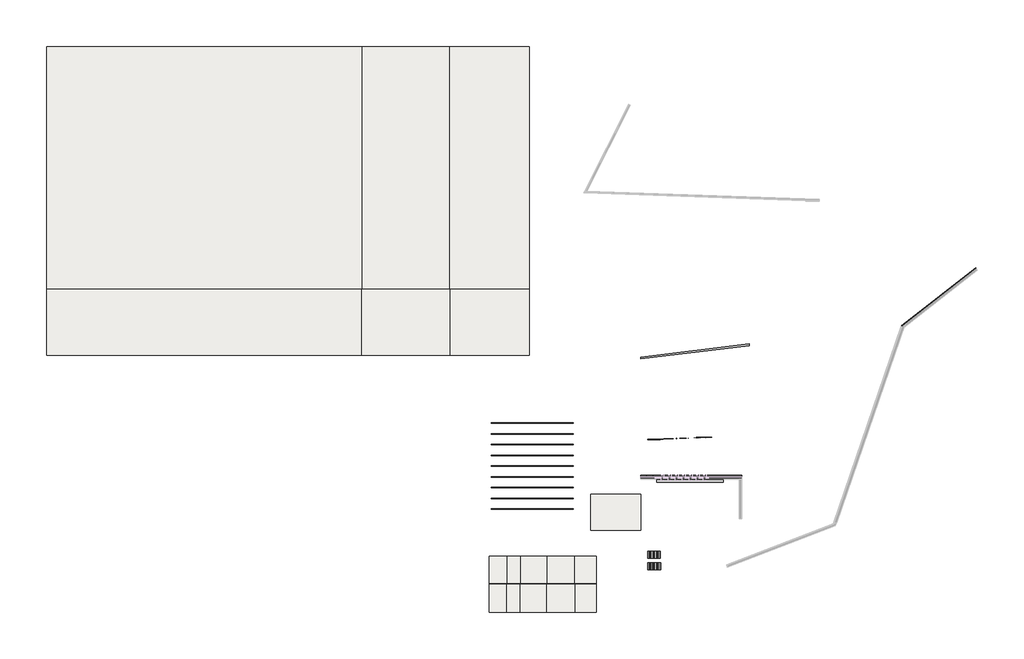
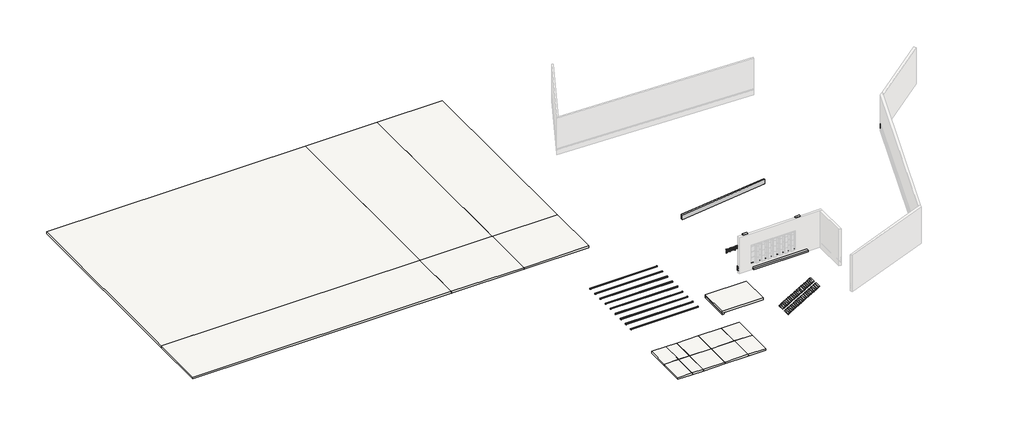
# One storey, part 3 of 3: 9 beams, 8 proxies, 3 slabs, 2 stair flights, 1 railing.
"""IFC4 building model written with IfcOpenShell, lengths in millimetres."""

from ifc_helpers import new_model, si_unit, point, frame, frame_2d, origin, origin_with_axes, place, context, project, spatial, polyline, circle_curve, ellipse_curve, trimmed, segment, composite_curve, outline, extrude, faceted_brep, transform, mapped, element, save
from ifc_brep_helpers import plane_surface, cylinder_surface, advanced_brep
from components import i_20b_96209b2f, generic_models_19370851, generic_models_e365064d, stair_flight_9368ac00, stair_flight_5a34b58b

model = new_model("IFC4")

# Units and contexts
model_context = context("Model", 3, world=origin())
ifc_project = project(units=[si_unit("LENGTHUNIT", "METRE", prefix="MILLI")], contexts=[model_context])

# Site, building, storey
site = spatial("IfcSite", under=ifc_project)
building = spatial("IfcBuilding", under=site)
storey = spatial("IfcBuildingStorey", under=building, Name="Уровень 1", Elevation=0.0)

# Beams
placement = place(None, origin())
i_20b_shape = i_20b_96209b2f(model_context)
element("IfcBeam", 1, ObjectType="Двутавровая балка с параллельными гранями полок типа Б (ТУ 14-2-24-72) Балки : I 20B", at=placement, inside=storey, context=model_context, shape_type="MappedRepresentation", body=[
    mapped(i_20b_shape, transform((-40548.8124728, 17779.8601583, -97.0), x_axis=(1.0, 0.0, 0.0), y_axis=(0.0, 1.0, 0.0), z_axis=(0.0, 0.0, 1.0))),
])
element("IfcBeam", 2, ObjectType="Двутавровая балка с параллельными гранями полок типа Б (ТУ 14-2-24-72) Балки : I 20B", at=placement, inside=storey, context=model_context, shape_type="MappedRepresentation", body=[
    mapped(i_20b_shape, transform((-40548.8124728, 15951.0601583, -97.0), x_axis=(1.0, 0.0, 0.0), y_axis=(0.0, 1.0, 0.0), z_axis=(0.0, 0.0, 1.0))),
])
element("IfcBeam", 3, ObjectType="Двутавровая балка с параллельными гранями полок типа Б (ТУ 14-2-24-72) Балки : I 20B", at=placement, inside=storey, context=model_context, shape_type="MappedRepresentation", body=[
    mapped(i_20b_shape, transform((-40548.8124728, 14122.2601583, -97.0), x_axis=(1.0, 0.0, 0.0), y_axis=(0.0, 1.0, 0.0), z_axis=(0.0, 0.0, 1.0))),
])
element("IfcBeam", 4, ObjectType="Двутавровая балка с параллельными гранями полок типа Б (ТУ 14-2-24-72) Балки : I 20B", at=placement, inside=storey, context=model_context, shape_type="MappedRepresentation", body=[
    mapped(i_20b_shape, transform((-40548.8124728, 12293.4601583, -97.0), x_axis=(1.0, 0.0, 0.0), y_axis=(0.0, 1.0, 0.0), z_axis=(0.0, 0.0, 1.0))),
])
element("IfcBeam", 5, ObjectType="Двутавровая балка с параллельными гранями полок типа Б (ТУ 14-2-24-72) Балки : I 20B", at=placement, inside=storey, context=model_context, shape_type="MappedRepresentation", body=[
    mapped(i_20b_shape, transform((-40548.8124728, 10464.6601583, -97.0), x_axis=(1.0, 0.0, 0.0), y_axis=(0.0, 1.0, 0.0), z_axis=(0.0, 0.0, 1.0))),
])
element("IfcBeam", 6, ObjectType="Двутавровая балка с параллельными гранями полок типа Б (ТУ 14-2-24-72) Балки : I 20B", at=placement, inside=storey, context=model_context, shape_type="MappedRepresentation", body=[
    mapped(i_20b_shape, transform((-40548.8124728, 8635.8601583, -97.0), x_axis=(1.0, 0.0, 0.0), y_axis=(0.0, 1.0, 0.0), z_axis=(0.0, 0.0, 1.0))),
])
element("IfcBeam", 7, ObjectType="Двутавровая балка с параллельными гранями полок типа Б (ТУ 14-2-24-72) Балки : I 20B", at=placement, inside=storey, context=model_context, shape_type="MappedRepresentation", body=[
    mapped(i_20b_shape, transform((-40548.8124728, 6807.0601583, -97.0), x_axis=(1.0, 0.0, 0.0), y_axis=(0.0, 1.0, 0.0), z_axis=(0.0, 0.0, 1.0))),
])
element("IfcBeam", 8, ObjectType="Двутавровая балка с параллельными гранями полок типа Б (ТУ 14-2-24-72) Балки : I 20B", at=placement, inside=storey, context=model_context, shape_type="MappedRepresentation", body=[
    mapped(i_20b_shape, transform((-40548.8124728, 4978.2601583, -97.0), x_axis=(1.0, 0.0, 0.0), y_axis=(0.0, 1.0, 0.0), z_axis=(0.0, 0.0, 1.0))),
])
element("IfcBeam", 9, ObjectType="Двутавровая балка с параллельными гранями полок типа Б (ТУ 14-2-24-72) Балки : I 20B", at=placement, inside=storey, context=model_context, shape_type="MappedRepresentation", body=[
    mapped(i_20b_shape, transform((-40548.8124728, 3149.4601583, -97.0), x_axis=(1.0, 0.0, 0.0), y_axis=(0.0, 1.0, 0.0), z_axis=(0.0, 0.0, 1.0))),
])

# Proxies
element("IfcBuildingElementProxy", 10, Name="Карниз", ObjectType="Карниз", at=placement, inside=storey, context=model_context, shape_type="SweptSolid", body=[
    extrude(outline(polyline([(-22062.5352251, 8444.6601583), (-22062.5352251, 8944.6601583), (-4832.5352251, 8944.6601583), (-4832.5352251, 8444.6601583), (-22062.5352251, 8444.6601583)])), frame((0.0, 0.0, 400.0), z_axis=(0.0, 0.0, 1.0), x_axis=(1.0, 0.0, 0.0)), (0.0, 0.0, 1.0), 1000.0),
])
element("IfcBuildingElementProxy", 11, Name="Карниз", ObjectType="Карниз", at=placement, inside=storey, context=model_context, shape_type="SweptSolid", body=[
    extrude(outline(polyline([(-9162.5352251, 8944.6601583), (-9162.5352251, 8444.6601583), (-10162.5352251, 8444.6601583), (-10162.5352251, 8944.6601583), (-9162.5352251, 8944.6601583)])), origin_with_axes(), (0.0, 0.0, 1.0), 8000.0),
])
element("IfcBuildingElementProxy", 12, Name="Карниз", ObjectType="Карниз", at=placement, inside=storey, context=model_context, shape_type="SweptSolid", body=[
    extrude(outline(polyline([(-20062.5352251, 8944.6601583), (-20062.5352251, 8444.6601583), (-21062.5352251, 8444.6601583), (-21062.5352251, 8944.6601583), (-20062.5352251, 8944.6601583)])), origin_with_axes(), (0.0, 0.0, 1.0), 8000.0),
])
element("IfcBuildingElementProxy", 13, Name="Кромка плиты", ObjectType="Кромка плиты", at=placement, inside=storey, context=model_context, shape_type="Brep", body=[
    faceted_brep([(-30562.5352251, 5650.3560812, -700.0), (-30562.5352251, 5650.3560812, -400.0), (-29962.5352251, 5050.3560812, -400.0), (-30262.5352251, 5350.3560812, -700.0), (-30562.5352251, -449.6439188, -700.0), (-30262.5352251, -449.6439188, -700.0), (-29962.5352251, -449.6439188, -400.0), (-30562.5352251, -449.6439188, -400.0)], [[[0, 1, 2, 3]], [[4, 5, 6, 7]], [[1, 0, 4, 7]], [[2, 1, 7, 6]], [[3, 2, 6, 5]], [[0, 3, 5, 4]]]),
])
element("IfcBuildingElementProxy", 14, Name="Reveals", at=placement, inside=storey, context=model_context, shape_type="AdvancedBrep", body=[
    advanced_brep(
    [(22397.5758724, 34312.0338235, 1673.1169098), (22347.3386796, 34347.8676649, 1800.0), (22347.3386796, 34347.8676649, 600.0), (22392.5291567, 34315.6336109, 751.8422279), (22367.7136203, 34333.334361, 959.7985223), (22400.8730748, 34309.6819519, 1200.0), (22369.0627844, 34332.3720116, 1466.5729246), (35045.6237733, 44193.7718518, 1673.1169098), (35024.9491709, 44220.2341361, 1466.5729246), (35048.0145472, 44190.7118008, 1200.0), (35023.9709033, 44221.4862616, 959.7985223), (35041.9644418, 44198.4555826, 751.8422279), (35009.1972037, 44240.3957347, 600.0), (35009.1972037, 44240.3957347, 1800.0)],
    [
        (0, 1),
        (1, 2),
        (2, 3, ellipse_curve(frame((22271.8588457, 34401.7069072, 716.4080451), z_axis=(-0.5807029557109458, -0.8141155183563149, 0.0), x_axis=(-0.8141155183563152, 0.5807029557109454, 0.0)), 152.7602218, 146.4695154)),
        (3, 4),
        (4, 5),
        (5, 6),
        (6, 0),
        (7, 8),
        (8, 9),
        (9, 10),
        (10, 11),
        (11, 12, circle_curve(frame((34954.4674057, 44310.4466817, 716.4080451), z_axis=(0.7880107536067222, 0.6156614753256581, 0.0), x_axis=(-0.6156614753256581, 0.7880107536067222, 0.0)), 146.4695154)),
        (12, 13),
        (13, 7),
        (0, 7),
        (13, 1),
        (12, 2),
        (11, 3),
        (10, 4),
        (9, 5),
        (8, 6),
    ],
    [
        plane_surface(frame((22347.3386796, 34347.8676649, 1504.8), z_axis=(-0.5807029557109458, -0.8141155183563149, 0.0), x_axis=(0.8141155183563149, -0.5807029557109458, 0.0))),
        plane_surface(frame((35009.1972037, 44240.3957347, 1800.0), z_axis=(0.788010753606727, 0.615661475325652, 0.0), x_axis=(0.615661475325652, -0.788010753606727, 0.0))),
        plane_surface(frame((22397.5758724, 34312.0338235, 1673.1169098), z_axis=(0.5579787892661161, -0.7141802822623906, 0.4226182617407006), x_axis=(0.7880107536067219, 0.6156614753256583, 0.0))),
        plane_surface(frame((22347.3386796, 34347.8676649, 1800.0), z_axis=(-0.615661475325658, 0.7880107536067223, 0.0), x_axis=(0.7880107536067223, 0.615661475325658, 0.0))),
        cylinder_surface(frame((22292.6088816, 34417.918612, 716.4080451), z_axis=(-0.7880107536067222, -0.6156614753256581, 0.0), x_axis=(-0.6156614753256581, 0.7880107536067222, 0.0)), 146.4695154),
        plane_surface(frame((22392.5291567, 34315.6336109, 751.8422279), z_axis=(0.6096699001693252, -0.7803418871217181, 0.13917310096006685), x_axis=(0.7880107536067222, 0.6156614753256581, 0.0))),
        plane_surface(frame((22367.7136203, 34333.334361, 959.7985223), z_axis=(0.6076820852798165, -0.7777976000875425, -0.16047858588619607), x_axis=(0.7880107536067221, 0.6156614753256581, 0.0))),
        plane_surface(frame((22400.8730748, 34309.6819519, 1200.0), z_axis=(0.609669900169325, -0.7803418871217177, 0.13917310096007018), x_axis=(0.7880107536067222, 0.6156614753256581, 0.0))),
        plane_surface(frame((22369.0627844, 34332.3720116, 1466.5729246), z_axis=(0.607682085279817, -0.7777976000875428, -0.1604785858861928), x_axis=(0.788010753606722, 0.6156614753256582, 0.0))),
    ],
    [
        (0, [[1, 2, 3, 4, 5, 6, 7]]),
        (1, [[8, 9, 10, 11, 12, 13, 14]]),
        (2, [[-1, 15, -14, 16]]),
        (3, [[-2, -16, -13, 17]]),
        (4, [[-3, -17, -12, 18]]),
        (5, [[-4, -18, -11, 19]]),
        (6, [[-5, -19, -10, 20]]),
        (7, [[-6, -20, -9, 21]]),
        (8, [[-7, -21, -8, -15]]),
    ],
),
])
element("IfcBuildingElementProxy", 15, Name="Кромка плиты", ObjectType="Кромка плиты", at=placement, inside=storey, context=model_context, shape_type="Brep", body=[
    faceted_brep([(-22062.5352251, 5650.3560812, -700.0), (-22062.5352251, 5650.3560812, -400.0), (-22062.5352251, 5050.3560812, -400.0), (-22062.5352251, 5350.3560812, -700.0), (-30562.5352251, 5650.3560812, -700.0), (-30262.5352251, 5350.3560812, -700.0), (-29962.5352251, 5050.3560812, -400.0), (-30562.5352251, 5650.3560812, -400.0)], [[[0, 1, 2, 3]], [[4, 5, 6, 7]], [[1, 0, 4, 7]], [[2, 1, 7, 6]], [[3, 2, 6, 5]], [[0, 3, 5, 4]]]),
])
generic_models_shape = generic_models_19370851(model_context)
element("IfcBuildingElementProxy", 16, Name="Семейство21 : Семейство21", ObjectType="Семейство21 : Семейство21", at=placement, inside=storey, context=model_context, shape_type="MappedRepresentation", body=[
    mapped(generic_models_shape, transform((-22062.5352251, 28879.8601583, 0.0), x_axis=(0.9925461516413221, 0.12186934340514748, 0.0), y_axis=(-0.12186934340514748, 0.9925461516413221, 0.0), z_axis=(0.0, 0.0, 1.0))),
])
generic_models_2_shape = generic_models_e365064d(model_context)
element("IfcBuildingElementProxy", 17, Name="5_Профиль_Управление параметрами : 5_Профиль_Управление параметрами", ObjectType="5_Профиль_Управление параметрами : 5_Профиль_Управление параметрами", at=placement, inside=storey, context=model_context, shape_type="MappedRepresentation", body=[
    mapped(generic_models_2_shape, transform((-19329.5062361, 8234.6601583, 444.9749226), x_axis=(1.0, 0.0, 0.0), y_axis=(0.0, 0.0, 1.0), z_axis=(0.0, -1.0, 0.0))),
])

# Railing
element("IfcRailing", 18, ObjectType="Труба 900 мм", at=placement, inside=storey, context=model_context, shape_type="SweptSolid", body=[
    extrude(outline(composite_curve([segment(trimmed(circle_curve(frame_2d((0.0, 20.0)), 20.0), [point((-20.0, 20.0))], [point((20.0000001, 20.0))], False, "CARTESIAN"), True, "CONTINUOUS"), segment(trimmed(circle_curve(frame_2d((0.0, 20.0)), 20.0), [point((20.0000001, 20.0))], [point((-20.0, 20.0))], False, "CARTESIAN"), True, "CONTINUOUS")], self_intersect=False)), frame((-20882.1790658, 15003.6066223, 900.0), z_axis=(0.9993908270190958, 0.034899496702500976, 0.0), x_axis=(0.034899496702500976, -0.9993908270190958, 0.0)), (0.0, 0.0, 1.0), 10900.0),
    extrude(outline(composite_curve([segment(trimmed(circle_curve(frame_2d((0.0, 15.0)), 15.0), [point((15.0, 15.0))], [point((-15.0, 15.0))], False, "CARTESIAN"), True, "CONTINUOUS"), segment(trimmed(circle_curve(frame_2d((0.0, 15.0)), 15.0), [point((-15.0, 15.0))], [point((15.0, 15.0))], False, "CARTESIAN"), True, "CONTINUOUS")], self_intersect=False)), frame((-20882.1790658, 15003.6066223, 775.0), z_axis=(0.9993908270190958, 0.034899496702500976, 0.0), x_axis=(0.034899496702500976, -0.9993908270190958, 0.0)), (0.0, 0.0, 1.0), 10900.0),
    extrude(outline(composite_curve([segment(trimmed(circle_curve(frame_2d((0.0, 15.0)), 15.0), [point((15.0, 15.0))], [point((-15.0, 15.0))], False, "CARTESIAN"), True, "CONTINUOUS"), segment(trimmed(circle_curve(frame_2d((0.0, 15.0)), 15.0), [point((-15.0, 15.0))], [point((15.0, 15.0))], False, "CARTESIAN"), True, "CONTINUOUS")], self_intersect=False)), frame((-20882.1790658, 15003.6066223, 650.0), z_axis=(0.9993908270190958, 0.034899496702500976, 0.0), x_axis=(0.034899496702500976, -0.9993908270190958, 0.0)), (0.0, 0.0, 1.0), 10900.0),
    extrude(outline(composite_curve([segment(trimmed(circle_curve(frame_2d((0.0, 15.0)), 15.0), [point((15.0, 15.0))], [point((-15.0, 15.0))], False, "CARTESIAN"), True, "CONTINUOUS"), segment(trimmed(circle_curve(frame_2d((0.0, 15.0)), 15.0), [point((-15.0, 15.0))], [point((15.0, 15.0))], False, "CARTESIAN"), True, "CONTINUOUS")], self_intersect=False)), frame((-20882.1790658, 15003.6066223, 525.0), z_axis=(0.9993908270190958, 0.034899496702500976, 0.0), x_axis=(0.034899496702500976, -0.9993908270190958, 0.0)), (0.0, 0.0, 1.0), 10900.0),
    extrude(outline(composite_curve([segment(trimmed(circle_curve(frame_2d((0.0, 15.0)), 15.0), [point((15.0, 15.0))], [point((-15.0, 15.0))], False, "CARTESIAN"), True, "CONTINUOUS"), segment(trimmed(circle_curve(frame_2d((0.0, 15.0)), 15.0), [point((-15.0, 15.0))], [point((15.0, 15.0))], False, "CARTESIAN"), True, "CONTINUOUS")], self_intersect=False)), frame((-20882.1790658, 15003.6066223, 400.0), z_axis=(0.9993908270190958, 0.034899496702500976, 0.0), x_axis=(0.034899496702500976, -0.9993908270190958, 0.0)), (0.0, 0.0, 1.0), 10900.0),
    extrude(outline(composite_curve([segment(trimmed(circle_curve(frame_2d((0.0, 15.0)), 15.0), [point((15.0, 15.0))], [point((-15.0, 15.0))], False, "CARTESIAN"), True, "CONTINUOUS"), segment(trimmed(circle_curve(frame_2d((0.0, 15.0)), 15.0), [point((-15.0, 15.0))], [point((15.0, 15.0))], False, "CARTESIAN"), True, "CONTINUOUS")], self_intersect=False)), frame((-20882.1790658, 15003.6066223, 275.0), z_axis=(0.9993908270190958, 0.034899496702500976, 0.0), x_axis=(0.034899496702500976, -0.9993908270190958, 0.0)), (0.0, 0.0, 1.0), 10900.0),
    extrude(outline(composite_curve([segment(trimmed(circle_curve(frame_2d((0.0, 15.0)), 15.0), [point((15.0, 15.0))], [point((-15.0, 15.0))], False, "CARTESIAN"), True, "CONTINUOUS"), segment(trimmed(circle_curve(frame_2d((0.0, 15.0)), 15.0), [point((-15.0, 15.0))], [point((15.0, 15.0))], False, "CARTESIAN"), True, "CONTINUOUS")], self_intersect=False)), frame((-20882.1790658, 15003.6066223, 150.0), z_axis=(0.9993908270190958, 0.034899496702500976, 0.0), x_axis=(0.034899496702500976, -0.9993908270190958, 0.0)), (0.0, 0.0, 1.0), 10900.0),
    extrude(outline(composite_curve([segment(trimmed(circle_curve(frame_2d((-19982.7273215, 15035.0161693)), 12.5), [point((-19982.2910778, 15022.523784))], [point((-19983.1635652, 15047.5085546))], False, "CARTESIAN"), True, "CONTINUOUS"), segment(trimmed(circle_curve(frame_2d((-19982.7273215, 15035.0161693)), 12.5), [point((-19983.1635652, 15047.5085546))], [point((-19982.2910778, 15022.523784))], False, "CARTESIAN"), True, "CONTINUOUS")], self_intersect=False)), origin_with_axes(), (0.0, 0.0, 1.0), 860.0),
    extrude(outline(composite_curve([segment(trimmed(circle_curve(frame_2d((-18983.3364944, 15069.915666)), 12.5), [point((-18982.9002507, 15057.4232807))], [point((-18983.7727382, 15082.4080513))], False, "CARTESIAN"), True, "CONTINUOUS"), segment(trimmed(circle_curve(frame_2d((-18983.3364944, 15069.915666)), 12.5), [point((-18983.7727382, 15082.4080513))], [point((-18982.9002507, 15057.4232807))], False, "CARTESIAN"), True, "CONTINUOUS")], self_intersect=False)), origin_with_axes(), (0.0, 0.0, 1.0), 860.0),
    extrude(outline(composite_curve([segment(trimmed(circle_curve(frame_2d((-17983.9456674, 15104.8151627)), 12.5), [point((-17983.5094237, 15092.3227774))], [point((-17984.3819111, 15117.3075481))], False, "CARTESIAN"), True, "CONTINUOUS"), segment(trimmed(circle_curve(frame_2d((-17983.9456674, 15104.8151627)), 12.5), [point((-17984.3819111, 15117.3075481))], [point((-17983.5094237, 15092.3227774))], False, "CARTESIAN"), True, "CONTINUOUS")], self_intersect=False)), origin_with_axes(), (0.0, 0.0, 1.0), 860.0),
    extrude(outline(composite_curve([segment(trimmed(circle_curve(frame_2d((-16984.5548404, 15139.7146594)), 12.5), [point((-16984.1185967, 15127.2222741))], [point((-16984.9910841, 15152.2070448))], False, "CARTESIAN"), True, "CONTINUOUS"), segment(trimmed(circle_curve(frame_2d((-16984.5548404, 15139.7146594)), 12.5), [point((-16984.9910841, 15152.2070448))], [point((-16984.1185967, 15127.2222741))], False, "CARTESIAN"), True, "CONTINUOUS")], self_intersect=False)), origin_with_axes(), (0.0, 0.0, 1.0), 860.0),
    extrude(outline(composite_curve([segment(trimmed(circle_curve(frame_2d((-15985.1640134, 15174.6141561)), 12.5), [point((-15984.7277697, 15162.1217708))], [point((-15985.6002571, 15187.1065415))], False, "CARTESIAN"), True, "CONTINUOUS"), segment(trimmed(circle_curve(frame_2d((-15985.1640134, 15174.6141561)), 12.5), [point((-15985.6002571, 15187.1065415))], [point((-15984.7277697, 15162.1217708))], False, "CARTESIAN"), True, "CONTINUOUS")], self_intersect=False)), origin_with_axes(), (0.0, 0.0, 1.0), 860.0),
    extrude(outline(composite_curve([segment(trimmed(circle_curve(frame_2d((-14985.7731864, 15209.5136528)), 12.5), [point((-14985.3369427, 15197.0212675))], [point((-14986.2094301, 15222.0060382))], False, "CARTESIAN"), True, "CONTINUOUS"), segment(trimmed(circle_curve(frame_2d((-14985.7731864, 15209.5136528)), 12.5), [point((-14986.2094301, 15222.0060382))], [point((-14985.3369427, 15197.0212675))], False, "CARTESIAN"), True, "CONTINUOUS")], self_intersect=False)), origin_with_axes(), (0.0, 0.0, 1.0), 860.0),
    extrude(outline(composite_curve([segment(trimmed(circle_curve(frame_2d((-13986.3823593, 15244.4131495)), 12.5), [point((-13985.9461156, 15231.9207642))], [point((-13986.8186031, 15256.9055349))], False, "CARTESIAN"), True, "CONTINUOUS"), segment(trimmed(circle_curve(frame_2d((-13986.3823593, 15244.4131495)), 12.5), [point((-13986.8186031, 15256.9055349))], [point((-13985.9461156, 15231.9207642))], False, "CARTESIAN"), True, "CONTINUOUS")], self_intersect=False)), origin_with_axes(), (0.0, 0.0, 1.0), 860.0),
    extrude(outline(composite_curve([segment(trimmed(circle_curve(frame_2d((-12986.9915323, 15279.3126462)), 12.5), [point((-12986.5552886, 15266.8202609))], [point((-12987.427776, 15291.8050316))], False, "CARTESIAN"), True, "CONTINUOUS"), segment(trimmed(circle_curve(frame_2d((-12986.9915323, 15279.3126462)), 12.5), [point((-12987.427776, 15291.8050316))], [point((-12986.5552886, 15266.8202609))], False, "CARTESIAN"), True, "CONTINUOUS")], self_intersect=False)), origin_with_axes(), (0.0, 0.0, 1.0), 860.0),
    extrude(outline(composite_curve([segment(trimmed(circle_curve(frame_2d((-11987.6007053, 15314.2121429)), 12.5), [point((-11987.1644616, 15301.7197576))], [point((-11988.036949, 15326.7045283))], False, "CARTESIAN"), True, "CONTINUOUS"), segment(trimmed(circle_curve(frame_2d((-11987.6007053, 15314.2121429)), 12.5), [point((-11988.036949, 15326.7045283))], [point((-11987.1644616, 15301.7197576))], False, "CARTESIAN"), True, "CONTINUOUS")], self_intersect=False)), origin_with_axes(), (0.0, 0.0, 1.0), 860.0),
    extrude(outline(composite_curve([segment(trimmed(circle_curve(frame_2d((-10988.2098783, 15349.1116396)), 12.5), [point((-10987.7736346, 15336.6192543))], [point((-10988.646122, 15361.604025))], False, "CARTESIAN"), True, "CONTINUOUS"), segment(trimmed(circle_curve(frame_2d((-10988.2098783, 15349.1116396)), 12.5), [point((-10988.646122, 15361.604025))], [point((-10987.7736346, 15336.6192543))], False, "CARTESIAN"), True, "CONTINUOUS")], self_intersect=False)), origin_with_axes(), (0.0, 0.0, 1.0), 860.0),
    extrude(outline(composite_curve([segment(trimmed(circle_curve(frame_2d((-20869.6866804, 15004.042866)), 12.5), [point((-20869.2504367, 14991.5504806))], [point((-20870.1229241, 15016.5352513))], False, "CARTESIAN"), True, "CONTINUOUS"), segment(trimmed(circle_curve(frame_2d((-20869.6866804, 15004.042866)), 12.5), [point((-20870.1229241, 15016.5352513))], [point((-20869.2504367, 14991.5504806))], False, "CARTESIAN"), True, "CONTINUOUS")], self_intersect=False)), origin_with_axes(), (0.0, 0.0, 1.0), 860.0),
    extrude(outline(composite_curve([segment(trimmed(circle_curve(frame_2d((-10001.3114366, 15383.5748926)), 12.5), [point((-10000.8751929, 15371.0825073))], [point((-10001.7476803, 15396.067278))], False, "CARTESIAN"), True, "CONTINUOUS"), segment(trimmed(circle_curve(frame_2d((-10001.3114366, 15383.5748926)), 12.5), [point((-10001.7476803, 15396.067278))], [point((-10000.8751929, 15371.0825073))], False, "CARTESIAN"), True, "CONTINUOUS")], self_intersect=False)), origin_with_axes(), (0.0, 0.0, 1.0), 860.0),
])

# Slabs
element("IfcSlab", 19, ObjectType="Типовой пол - 400мм", at=placement, inside=storey, context=model_context, shape_type="Brep", body=[
    faceted_brep([(-30562.5352251, -449.6439188, -400.0), (-30562.5352251, 5650.3560812, -400.0), (-22062.5352251, 5650.3560812, -400.0), (-22062.5352251, 5050.3560812, -400.0), (-22062.5352251, -449.6439188, -400.0), (-29962.5352251, -449.6439188, -400.0), (-30562.5352251, -449.6439188, 0.0), (-22062.5352251, -449.6439188, 0.0), (-22062.5352251, 5650.3560812, 0.0), (-30562.5352251, 5650.3560812, 0.0)], [[[0, 1, 2, 3, 4, 5]], [[6, 7, 8, 9]], [[1, 0, 6, 9]], [[2, 1, 9, 8]], [[4, 3, 2, 8, 7]], [[0, 5, 4, 7, 6]]]),
])
element("IfcSlab", 20, ObjectType="Типовой пол - 400мм", at=placement, inside=storey, context=model_context, shape_type="Brep", body=[
    faceted_brep([(-33320.2648212, -4892.7513201, -400.0), (-29648.5960511, -4892.7513201, -400.0), (-29648.5960511, -9535.3398417, -400.0), (-33320.2648212, -9535.3398417, -400.0), (-29648.5960511, -4892.7513201, 0.0), (-33320.2648212, -4892.7513201, 0.0), (-33320.2648212, -9535.3398417, 0.0), (-29648.5960511, -9535.3398417, 0.0), (-33172.0087244, -4892.7513201, -200.0), (-29648.5960511, -9387.0837448, -200.0), (-33172.0087244, -9387.0837448, -200.0)], [[[0, 1, 2, 3]], [[4, 5, 6, 7]], [[4, 1, 0, 8, 5]], [[1, 4, 7, 9, 2]], [[5, 8, 10, 6]], [[8, 0, 3, 10]], [[10, 9, 7, 6]], [[9, 10, 3, 2]]]),
    faceted_brep([(-47848.5960511, -4892.7513201, -400.0), (-44920.2648212, -4892.7513201, -400.0), (-44920.2648212, -9535.3398417, -400.0), (-47848.5960511, -9535.3398417, -400.0), (-47848.5960511, -4892.7513201, 0.0), (-44920.2648212, -4892.7513201, 0.0), (-44772.0087244, -4892.7513201, -200.0), (-47848.5960511, -9535.3398417, 0.0), (-44920.2648212, -9535.3398417, 0.0), (-47848.5960511, -9387.0837448, -200.0), (-44772.0087244, -9387.0837448, -200.0)], [[[0, 1, 2, 3]], [[0, 4, 5, 6, 1]], [[5, 4, 7, 8]], [[4, 0, 3, 9, 7]], [[1, 6, 10, 2]], [[6, 5, 8, 10]], [[9, 10, 8, 7]], [[10, 9, 3, 2]]]),
    faceted_brep([(-44920.2648212, -4892.7513201, -400.0), (-42620.2648212, -4892.7513201, -400.0), (-42620.2648212, -9535.3398417, -400.0), (-44920.2648212, -9535.3398417, -400.0), (-44772.0087244, -4892.7513201, -200.0), (-44920.2648212, -4892.7513201, 0.0), (-42620.2648212, -4892.7513201, 0.0), (-42472.0087244, -4892.7513201, -200.0), (-44920.2648212, -9535.3398417, 0.0), (-42620.2648212, -9535.3398417, 0.0), (-44772.0087244, -9387.0837448, -200.0), (-42472.0087244, -9387.0837448, -200.0)], [[[0, 1, 2, 3]], [[0, 4, 5, 6, 7, 1]], [[6, 5, 8, 9]], [[5, 4, 10, 8]], [[4, 0, 3, 10]], [[1, 7, 11, 2]], [[7, 6, 9, 11]], [[10, 11, 9, 8]], [[11, 10, 3, 2]]]),
    faceted_brep([(-42620.2648212, -4892.7513201, -400.0), (-38120.2648212, -4892.7513201, -400.0), (-38120.2648212, -9535.3398417, -400.0), (-42620.2648212, -9535.3398417, -400.0), (-42472.0087244, -4892.7513201, -200.0), (-42620.2648212, -4892.7513201, 0.0), (-38120.2648212, -4892.7513201, 0.0), (-37972.0087244, -4892.7513201, -200.0), (-42620.2648212, -9535.3398417, 0.0), (-38120.2648212, -9535.3398417, 0.0), (-42472.0087244, -9387.0837448, -200.0), (-37972.0087244, -9387.0837448, -200.0)], [[[0, 1, 2, 3]], [[0, 4, 5, 6, 7, 1]], [[6, 5, 8, 9]], [[5, 4, 10, 8]], [[4, 0, 3, 10]], [[1, 7, 11, 2]], [[7, 6, 9, 11]], [[10, 11, 9, 8]], [[11, 10, 3, 2]]]),
    faceted_brep([(-38120.2648212, -4892.7513201, -400.0), (-33320.2648212, -4892.7513201, -400.0), (-33320.2648212, -9535.3398417, -400.0), (-38120.2648212, -9535.3398417, -400.0), (-37972.0087244, -4892.7513201, -200.0), (-38120.2648212, -4892.7513201, 0.0), (-33320.2648212, -4892.7513201, 0.0), (-33172.0087244, -4892.7513201, -200.0), (-38120.2648212, -9535.3398417, 0.0), (-33320.2648212, -9535.3398417, 0.0), (-37972.0087244, -9387.0837448, -200.0), (-33172.0087244, -9387.0837448, -200.0)], [[[0, 1, 2, 3]], [[0, 4, 5, 6, 7, 1]], [[6, 5, 8, 9]], [[5, 4, 10, 8]], [[4, 0, 3, 10]], [[1, 7, 11, 2]], [[7, 6, 9, 11]], [[10, 11, 9, 8]], [[11, 10, 3, 2]]]),
    faceted_brep([(-33320.2648212, -14392.7513201, -400.0), (-38120.2648212, -14392.7513201, -400.0), (-38120.2648212, -9535.3398417, -400.0), (-33320.2648212, -9535.3398417, -400.0), (-38120.2648212, -14392.7513201, 0.0), (-33320.2648212, -14392.7513201, 0.0), (-33320.2648212, -9535.3398417, 0.0), (-38120.2648212, -9535.3398417, 0.0), (-33172.0087244, -14392.7513201, -200.0), (-37972.0087244, -14392.7513201, -200.0), (-37972.0087244, -9387.0837448, -200.0), (-33172.0087244, -9387.0837448, -200.0)], [[[0, 1, 2, 3]], [[4, 5, 6, 7]], [[1, 0, 8, 5, 4, 9]], [[9, 4, 7, 10]], [[1, 9, 10, 2]], [[8, 0, 3, 11]], [[5, 8, 11, 6]], [[10, 11, 3, 2]], [[11, 10, 7, 6]]]),
    faceted_brep([(-38120.2648212, -14392.7513201, -400.0), (-42620.2648212, -14392.7513201, -400.0), (-42620.2648212, -9535.3398417, -400.0), (-38120.2648212, -9535.3398417, -400.0), (-42620.2648212, -14392.7513201, 0.0), (-38120.2648212, -14392.7513201, 0.0), (-38120.2648212, -9535.3398417, 0.0), (-42620.2648212, -9535.3398417, 0.0), (-37972.0087244, -14392.7513201, -200.0), (-42472.0087244, -14392.7513201, -200.0), (-42472.0087244, -9387.0837448, -200.0), (-37972.0087244, -9387.0837448, -200.0)], [[[0, 1, 2, 3]], [[4, 5, 6, 7]], [[1, 0, 8, 5, 4, 9]], [[9, 4, 7, 10]], [[1, 9, 10, 2]], [[8, 0, 3, 11]], [[5, 8, 11, 6]], [[10, 11, 3, 2]], [[11, 10, 7, 6]]]),
    faceted_brep([(-42620.2648212, -14392.7513201, -400.0), (-44920.2648212, -14392.7513201, -400.0), (-44920.2648212, -9535.3398417, -400.0), (-42620.2648212, -9535.3398417, -400.0), (-44920.2648212, -14392.7513201, 0.0), (-42620.2648212, -14392.7513201, 0.0), (-42620.2648212, -9535.3398417, 0.0), (-44920.2648212, -9535.3398417, 0.0), (-42472.0087244, -14392.7513201, -200.0), (-44772.0087244, -14392.7513201, -200.0), (-44772.0087244, -9387.0837448, -200.0), (-42472.0087244, -9387.0837448, -200.0)], [[[0, 1, 2, 3]], [[4, 5, 6, 7]], [[1, 0, 8, 5, 4, 9]], [[9, 4, 7, 10]], [[1, 9, 10, 2]], [[8, 0, 3, 11]], [[5, 8, 11, 6]], [[10, 11, 3, 2]], [[11, 10, 7, 6]]]),
    faceted_brep([(-44920.2648212, -14392.7513201, -400.0), (-47848.5960511, -14392.7513201, -400.0), (-47848.5960511, -9535.3398417, -400.0), (-44920.2648212, -9535.3398417, -400.0), (-47848.5960511, -14392.7513201, 0.0), (-44920.2648212, -14392.7513201, 0.0), (-44920.2648212, -9535.3398417, 0.0), (-47848.5960511, -9535.3398417, 0.0), (-44772.0087244, -14392.7513201, -200.0), (-47848.5960511, -9387.0837448, -200.0), (-44772.0087244, -9387.0837448, -200.0)], [[[0, 1, 2, 3]], [[4, 5, 6, 7]], [[1, 0, 8, 5, 4]], [[1, 4, 7, 9, 2]], [[8, 0, 3, 10]], [[5, 8, 10, 6]], [[9, 10, 3, 2]], [[10, 9, 7, 6]]]),
    faceted_brep([(-29648.5960511, -14392.7513201, -400.0), (-33320.2648212, -14392.7513201, -400.0), (-33320.2648212, -9535.3398417, -400.0), (-29648.5960511, -9535.3398417, -400.0), (-29648.5960511, -14392.7513201, 0.0), (-33320.2648212, -14392.7513201, 0.0), (-33172.0087244, -14392.7513201, -200.0), (-29648.5960511, -9535.3398417, 0.0), (-33320.2648212, -9535.3398417, 0.0), (-29648.5960511, -9387.0837448, -200.0), (-33172.0087244, -9387.0837448, -200.0)], [[[0, 1, 2, 3]], [[1, 0, 4, 5, 6]], [[5, 4, 7, 8]], [[4, 0, 3, 9, 7]], [[6, 5, 8, 10]], [[1, 6, 10, 2]], [[10, 9, 3, 2]], [[9, 10, 8, 7]]]),
])
element("IfcSlab", 21, ObjectType="Типовой пол - 400мм", at=placement, inside=storey, context=model_context, shape_type="Brep", body=[
    faceted_brep([(-54602.9536022, 81952.1189639, -400.0), (-41107.2442259, 81952.1189639, -400.0), (-41107.2442259, 40717.1015648, -400.0), (-54602.9536022, 40717.1015648, -400.0), (-41107.2442259, 81952.1189639, 0.0), (-54602.9536022, 81952.1189639, 0.0), (-54602.9536022, 40717.1015648, 0.0), (-41107.2442259, 40717.1015648, 0.0), (-54602.9536022, 81952.1189639, -370.0), (-54532.9536022, 81952.1189639, -370.0), (-54532.9536022, 81952.1189639, -160.0), (-54602.9536022, 81952.1189639, -160.0), (-41107.2442259, 40717.1015648, -160.0), (-41107.2442259, 40787.1015648, -160.0), (-41107.2442259, 40787.1015648, -370.0), (-41107.2442259, 40717.1015648, -370.0), (-54602.9536022, 40717.1015648, -160.0), (-54532.9536022, 40787.1015648, -160.0), (-54532.9536022, 40787.1015648, -370.0), (-54602.9536022, 40717.1015648, -370.0)], [[[0, 1, 2, 3]], [[4, 5, 6, 7]], [[4, 1, 0, 8, 9, 10, 11, 5]], [[1, 4, 7, 12, 13, 14, 15, 2]], [[5, 11, 16, 6]], [[11, 10, 17, 13, 12, 16]], [[10, 9, 18, 17]], [[9, 8, 19, 15, 14, 18]], [[19, 8, 0, 3]], [[16, 12, 7, 6]], [[13, 17, 18, 14]], [[15, 19, 3, 2]]]),
    faceted_brep([(-123307.2442259, 81952.1189639, -400.0), (-69632.9536022, 81952.1189639, -400.0), (-69632.9536022, 40717.1015648, -400.0), (-123307.2442259, 40717.1015648, -400.0), (-123307.2442259, 81952.1189639, 0.0), (-69632.9536022, 81952.1189639, 0.0), (-69632.9536022, 81952.1189639, -190.0), (-69562.9536022, 81952.1189639, -190.0), (-69562.9536022, 81952.1189639, -340.0), (-69632.9536022, 81952.1189639, -340.0), (-123307.2442259, 40717.1015648, 0.0), (-69632.9536022, 40717.1015648, 0.0), (-123307.2442259, 40717.1015648, -370.0), (-123307.2442259, 40787.1015648, -370.0), (-123307.2442259, 40787.1015648, -160.0), (-123307.2442259, 40717.1015648, -160.0), (-69632.9536022, 40787.1015648, -340.0), (-69632.9536022, 40787.1015648, -370.0), (-69632.9536022, 40717.1015648, -370.0), (-69562.9536022, 40787.1015648, -340.0), (-69562.9536022, 40787.1015648, -190.0), (-69632.9536022, 40787.1015648, -190.0), (-69632.9536022, 40717.1015648, -160.0), (-69632.9536022, 40787.1015648, -160.0)], [[[0, 1, 2, 3]], [[0, 4, 5, 6, 7, 8, 9, 1]], [[5, 4, 10, 11]], [[4, 0, 3, 12, 13, 14, 15, 10]], [[1, 9, 16, 17, 18, 2]], [[9, 8, 19, 16]], [[8, 7, 20, 19]], [[7, 6, 21, 20]], [[6, 5, 11, 22, 23, 21]], [[15, 22, 11, 10]], [[22, 15, 14, 23]], [[23, 14, 13, 17, 16, 19, 20, 21]], [[17, 13, 12, 18]], [[18, 12, 3, 2]]]),
    faceted_brep([(-69602.9536022, 81952.1189639, -400.0), (-54632.9536022, 81952.1189639, -400.0), (-54632.9536022, 40717.1015648, -400.0), (-69602.9536022, 40717.1015648, -400.0), (-69602.9536022, 81952.1189639, -370.0), (-69532.9536022, 81952.1189639, -370.0), (-69532.9536022, 81952.1189639, -160.0), (-69602.9536022, 81952.1189639, -160.0), (-69602.9536022, 81952.1189639, 0.0), (-54632.9536022, 81952.1189639, 0.0), (-54632.9536022, 81952.1189639, -190.0), (-54562.9536022, 81952.1189639, -190.0), (-54562.9536022, 81952.1189639, -340.0), (-54632.9536022, 81952.1189639, -340.0), (-69602.9536022, 40717.1015648, 0.0), (-54632.9536022, 40717.1015648, 0.0), (-69602.9536022, 40717.1015648, -160.0), (-69532.9536022, 40787.1015648, -160.0), (-54632.9536022, 40787.1015648, -160.0), (-54632.9536022, 40717.1015648, -160.0), (-69532.9536022, 40787.1015648, -370.0), (-69602.9536022, 40717.1015648, -370.0), (-54632.9536022, 40717.1015648, -370.0), (-54632.9536022, 40787.1015648, -370.0), (-54632.9536022, 40787.1015648, -340.0), (-54562.9536022, 40787.1015648, -340.0), (-54562.9536022, 40787.1015648, -190.0), (-54632.9536022, 40787.1015648, -190.0)], [[[0, 1, 2, 3]], [[0, 4, 5, 6, 7, 8, 9, 10, 11, 12, 13, 1]], [[9, 8, 14, 15]], [[8, 7, 16, 14]], [[7, 6, 17, 18, 19, 16]], [[6, 5, 20, 17]], [[5, 4, 21, 22, 23, 20]], [[21, 4, 0, 3]], [[1, 13, 24, 23, 22, 2]], [[13, 12, 25, 24]], [[12, 11, 26, 25]], [[11, 10, 27, 26]], [[10, 9, 15, 19, 18, 27]], [[16, 19, 15, 14]], [[18, 17, 20, 23, 24, 25, 26, 27]], [[22, 21, 3, 2]]]),
    faceted_brep([(-54632.9536022, 29352.1189639, -400.0), (-69602.9536022, 29352.1189639, -400.0), (-69602.9536022, 40687.1015648, -400.0), (-54632.9536022, 40687.1015648, -400.0), (-69602.9536022, 29352.1189639, 0.0), (-54632.9536022, 29352.1189639, 0.0), (-54632.9536022, 40687.1015648, 0.0), (-69602.9536022, 40687.1015648, 0.0), (-54632.9536022, 29352.1189639, -340.0), (-54562.9536022, 29352.1189639, -340.0), (-54562.9536022, 29352.1189639, -190.0), (-54632.9536022, 29352.1189639, -190.0), (-69602.9536022, 29352.1189639, -160.0), (-69532.9536022, 29352.1189639, -160.0), (-69532.9536022, 29352.1189639, -370.0), (-69602.9536022, 29352.1189639, -370.0), (-69602.9536022, 40687.1015648, -160.0), (-69532.9536022, 40687.1015648, -160.0), (-69532.9536022, 40687.1015648, -190.0), (-69532.9536022, 40757.1015648, -190.0), (-69532.9536022, 40757.1015648, -340.0), (-69532.9536022, 40687.1015648, -340.0), (-69532.9536022, 40687.1015648, -370.0), (-69602.9536022, 40687.1015648, -370.0), (-54632.9536022, 40687.1015648, -340.0), (-54562.9536022, 40757.1015648, -340.0), (-54562.9536022, 40757.1015648, -190.0), (-54632.9536022, 40687.1015648, -190.0)], [[[0, 1, 2, 3]], [[4, 5, 6, 7]], [[1, 0, 8, 9, 10, 11, 5, 4, 12, 13, 14, 15]], [[12, 4, 7, 16]], [[13, 12, 16, 17]], [[14, 13, 17, 18, 19, 20, 21, 22]], [[15, 14, 22, 23]], [[1, 15, 23, 2]], [[8, 0, 3, 24]], [[9, 8, 24, 21, 20, 25]], [[26, 10, 9, 25]], [[11, 10, 26, 19, 18, 27]], [[5, 11, 27, 6]], [[21, 24, 3, 2, 23, 22]], [[25, 20, 19, 26]], [[27, 18, 17, 16, 7, 6]]]),
    faceted_brep([(-69632.9536022, 29352.1189639, -400.0), (-123307.2442259, 29352.1189639, -400.0), (-123307.2442259, 40687.1015648, -400.0), (-69632.9536022, 40687.1015648, -400.0), (-123307.2442259, 29352.1189639, 0.0), (-69632.9536022, 29352.1189639, 0.0), (-69632.9536022, 40687.1015648, 0.0), (-123307.2442259, 40687.1015648, 0.0), (-69632.9536022, 29352.1189639, -340.0), (-69562.9536022, 29352.1189639, -340.0), (-69562.9536022, 29352.1189639, -190.0), (-69632.9536022, 29352.1189639, -190.0), (-123307.2442259, 40687.1015648, -190.0), (-123307.2442259, 40757.1015648, -190.0), (-123307.2442259, 40757.1015648, -340.0), (-123307.2442259, 40687.1015648, -340.0), (-69632.9536022, 40687.1015648, -340.0), (-69562.9536022, 40757.1015648, -340.0), (-69562.9536022, 40757.1015648, -190.0), (-69632.9536022, 40687.1015648, -190.0)], [[[0, 1, 2, 3]], [[4, 5, 6, 7]], [[1, 0, 8, 9, 10, 11, 5, 4]], [[1, 4, 7, 12, 13, 14, 15, 2]], [[8, 0, 3, 16]], [[9, 8, 16, 15, 14, 17]], [[18, 10, 9, 17]], [[11, 10, 18, 13, 12, 19]], [[5, 11, 19, 6]], [[15, 16, 3, 2]], [[17, 14, 13, 18]], [[19, 12, 7, 6]]]),
    faceted_brep([(-41107.2442259, 29352.1189639, -400.0), (-54602.9536022, 29352.1189639, -400.0), (-54602.9536022, 40687.1015648, -400.0), (-41107.2442259, 40687.1015648, -400.0), (-41107.2442259, 29352.1189639, 0.0), (-54602.9536022, 29352.1189639, 0.0), (-54602.9536022, 29352.1189639, -160.0), (-54532.9536022, 29352.1189639, -160.0), (-54532.9536022, 29352.1189639, -370.0), (-54602.9536022, 29352.1189639, -370.0), (-41107.2442259, 40687.1015648, 0.0), (-54602.9536022, 40687.1015648, 0.0), (-41107.2442259, 40687.1015648, -340.0), (-41107.2442259, 40757.1015648, -340.0), (-41107.2442259, 40757.1015648, -190.0), (-41107.2442259, 40687.1015648, -190.0), (-54602.9536022, 40687.1015648, -160.0), (-54532.9536022, 40687.1015648, -160.0), (-54532.9536022, 40687.1015648, -190.0), (-54532.9536022, 40757.1015648, -190.0), (-54532.9536022, 40757.1015648, -340.0), (-54532.9536022, 40687.1015648, -340.0), (-54532.9536022, 40687.1015648, -370.0), (-54602.9536022, 40687.1015648, -370.0)], [[[0, 1, 2, 3]], [[1, 0, 4, 5, 6, 7, 8, 9]], [[5, 4, 10, 11]], [[4, 0, 3, 12, 13, 14, 15, 10]], [[6, 5, 11, 16]], [[7, 6, 16, 17]], [[8, 7, 17, 18, 19, 20, 21, 22]], [[9, 8, 22, 23]], [[1, 9, 23, 2]], [[21, 12, 3, 2, 23, 22]], [[12, 21, 20, 13]], [[13, 20, 19, 14]], [[14, 19, 18, 15]], [[15, 18, 17, 16, 11, 10]]]),
])

# Stair flights
stair_flight_shape = stair_flight_9368ac00(model_context)
element("IfcStairFlight", 22, ObjectType="АР_ГОСТ 8717.1-84_ЛС15", at=placement, inside=storey, context=model_context, shape_type="MappedRepresentation", body=[
    mapped(stair_flight_shape, transform((0.0, 0.0, 0.0), x_axis=(1.0, 0.0, 0.0), y_axis=(0.0, 1.0, 0.0), z_axis=(0.0, 0.0, 1.0))),
])
stair_flight_2_shape = stair_flight_5a34b58b(model_context)
element("IfcStairFlight", 23, ObjectType="АР_ГОСТ 8717.1-84_ЛС17", at=placement, inside=storey, context=model_context, shape_type="MappedRepresentation", body=[
    mapped(stair_flight_2_shape, transform((0.0, 0.0, 0.0), x_axis=(1.0, 0.0, 0.0), y_axis=(0.0, 1.0, 0.0), z_axis=(0.0, 0.0, 1.0))),
])

save(model, "model.ifc")
